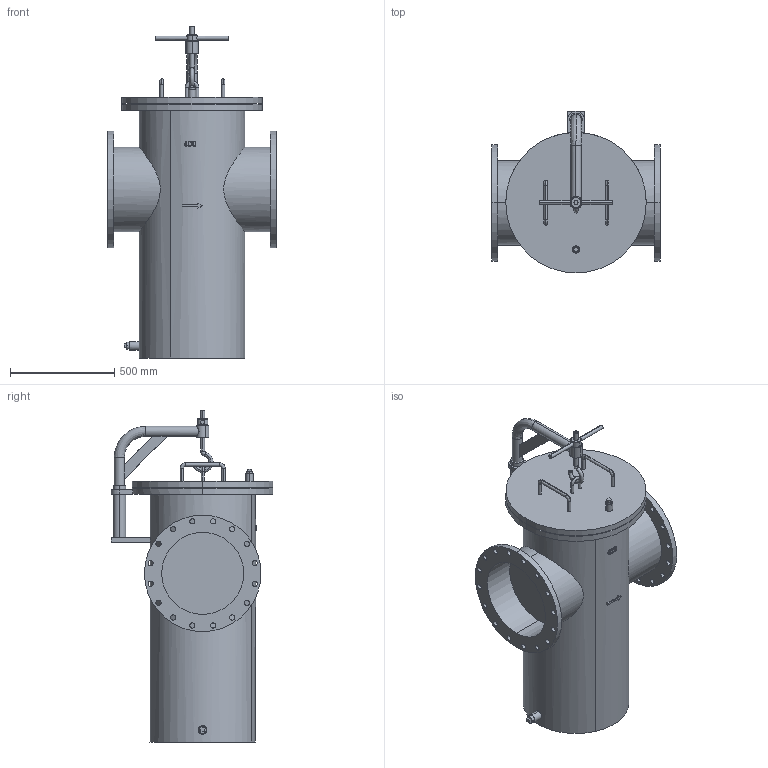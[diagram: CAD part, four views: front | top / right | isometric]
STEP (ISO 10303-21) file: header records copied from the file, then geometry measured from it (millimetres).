
FILE_DESCRIPTION( (''), '2;1');
FILE_NAME ('PC1056.41716.SU-6(400A)_2564.stp','2024-07-29T16:30:57',(''),(''),'spGate 19.8.4 (****-****-****-****)','','');
FILE_SCHEMA (('AUTOMOTIVE_DESIGN'));
Length unit declared in the file: millimetre
Products named in the file (24): Assembly; SU6(400A)本体P; PC1056-prt1; PC1056-prt2; PC1056-prt3; PC1056-prt4; PC1056-prt5; 400Aダビッド_M5; 400Aハンドル; 400Aふた用取っ手_M7; PC1056-prt9; PC1056-prt10; PC1056-prt11; PC1056-prt12; 400Aカギ形フック_M5; 400Aカギ形フック_M6; 400Aカギ形フック_M7; PC1056-prt16; PC1056-prt17; PC1056-prt18; PC1056-prt19; 400Aふた用ふっく_M4; プラグ　20A; plug-25A-JISB2301
Assembly tree (25 placements, depth 2):
  Assembly
    SU6(400A)本体P
    PC1056-prt1
    PC1056-prt2
    PC1056-prt3
    PC1056-prt4
    PC1056-prt5
    400Aダビッド_M5
    400Aハンドル
    400Aふた用取っ手_M7  x2
    PC1056-prt9
    PC1056-prt10
    PC1056-prt11
    PC1056-prt12  x2
    400Aカギ形フック_M5
    400Aカギ形フック_M6
    400Aカギ形フック_M7
    PC1056-prt16
    PC1056-prt17
    PC1056-prt18
    PC1056-prt19
    400Aふた用ふっく_M4
    プラグ　20A
    plug-25A-JISB2301
Bounding box: 810 x 777.5 x 1595 mm (x, y, z)
Volume: 281375296.5 mm3; surface area: 4683076.9 mm2
Topology: 11 solids, 11 shells, 319 faces, 778 edges, 524 vertices
Faces by surface type: cylinder 181, plane 95, bspline 43
Entity records: 18727 total; most frequent: CARTESIAN_POINT 5050, DIRECTION 1525, ORIENTED_EDGE 1468, COLOUR_RGB 1064, PRESENTATION_STYLE_ASSIGNMENT 1064, STYLED_ITEM 1064, DRAUGHTING_PRE_DEFINED_CURVE_FONT 747, CURVE_STYLE 747
